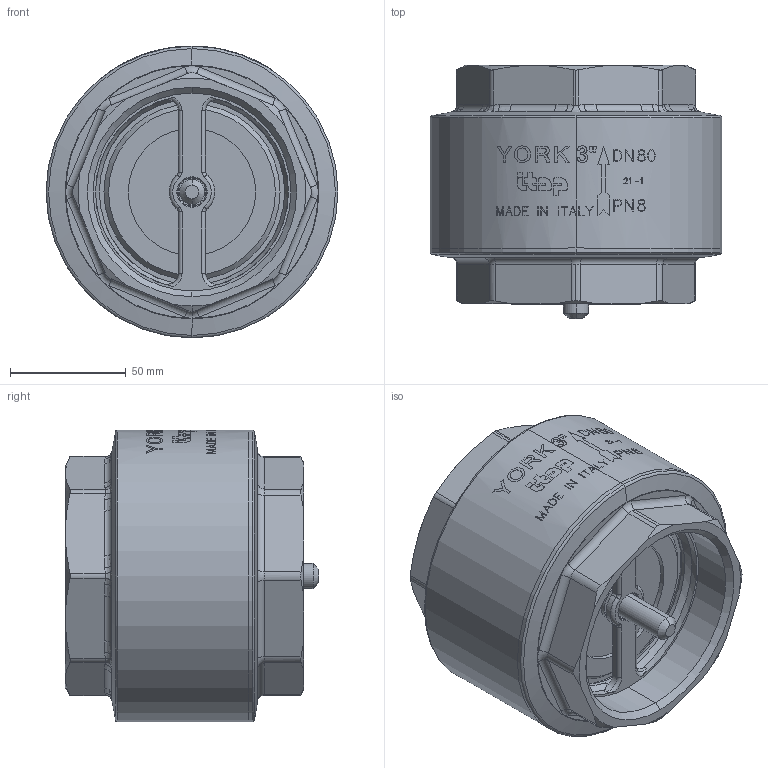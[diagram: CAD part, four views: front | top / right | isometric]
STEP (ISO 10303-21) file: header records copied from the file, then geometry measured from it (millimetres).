
FILE_DESCRIPTION (( 'STEP AP203' ), '1' );
FILE_NAME ('1030300.step', '2020-09-01T13:18:13', ( '' ), ( '' ), 'SwSTEP 2.0', 'SolidWorks 2018', '' );
FILE_SCHEMA (( 'CONFIG_CONTROL_DESIGN' ));
Length unit declared in the file: millimetre
Products named in the file (1): 1030300
Bounding box: 126 x 109.5 x 126 mm (x, y, z)
Surface area: 105028.8 mm2 (no closed solid volume)
Topology: 0 solids, 9 shells, 338 faces, 1403 edges, 1106 vertices
Faces by surface type: cylinder 113, bspline 82, plane 52, cone 46, torus 45
Entity records: 27070 total; most frequent: CARTESIAN_POINT 16495, ORIENTED_EDGE 2674, DIRECTION 1595, EDGE_CURVE 1403, VERTEX_POINT 1106, B_SPLINE_CURVE_WITH_KNOTS 735, AXIS2_PLACEMENT_3D 674, CIRCLE 417
